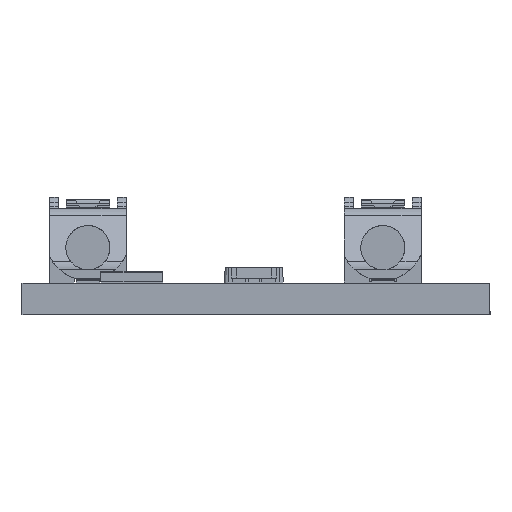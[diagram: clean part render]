
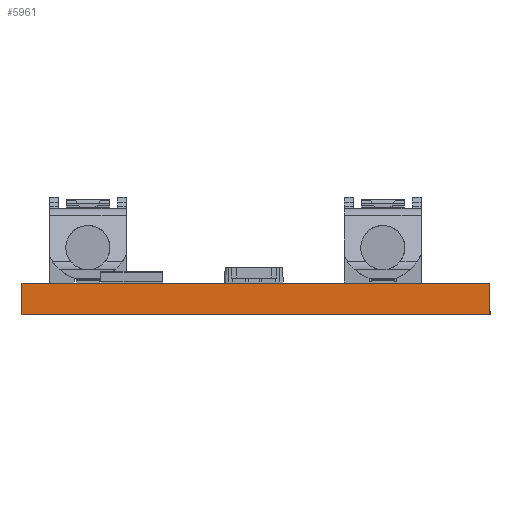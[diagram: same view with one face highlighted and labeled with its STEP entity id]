
A CAD part, left-side view. The second image highlights one B-rep face of the part: STEP entity #5961.
In plain terms, the highlighted planar face has unit normal (-1, 0, 0).
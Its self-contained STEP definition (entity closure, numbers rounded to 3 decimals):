
#79 = VECTOR ( 'NONE', #8153, 1000. ) ;
#138 = LINE ( 'NONE', #8077, #6708 ) ;
#190 = VERTEX_POINT ( 'NONE', #7967 ) ;
#483 = DIRECTION ( 'NONE',  ( 0., 0., -1. ) ) ;
#971 = DIRECTION ( 'NONE',  ( 0., 0., -1. ) ) ;
#1252 = DIRECTION ( 'NONE',  ( 1., 0., 0. ) ) ;
#1570 = DIRECTION ( 'NONE',  ( 0., -1., 0. ) ) ;
#1781 = LINE ( 'NONE', #6242, #79 ) ;
#2075 = EDGE_CURVE ( 'NONE', #5160, #2401, #1781, .T. ) ;
#2401 = VERTEX_POINT ( 'NONE', #5819 ) ;
#2406 = VERTEX_POINT ( 'NONE', #5853 ) ;
#2626 = EDGE_CURVE ( 'NONE', #2401, #2406, #3852, .T. ) ;
#2832 = LINE ( 'NONE', #2846, #4310 ) ;
#2846 = CARTESIAN_POINT ( 'NONE',  ( 0., 0., 0. ) ) ;
#3417 = AXIS2_PLACEMENT_3D ( 'NONE', #5049, #1252, #5697 ) ;
#3824 = ORIENTED_EDGE ( 'NONE', *, *, #4302, .T. ) ;
#3852 = LINE ( 'NONE', #4759, #5953 ) ;
#4110 = EDGE_CURVE ( 'NONE', #190, #2406, #2832, .T. ) ;
#4270 = PLANE ( 'NONE',  #3417 ) ;
#4302 = EDGE_CURVE ( 'NONE', #5160, #190, #138, .T. ) ;
#4310 = VECTOR ( 'NONE', #1570, 1000. ) ;
#4759 = CARTESIAN_POINT ( 'NONE',  ( 0., 0., 1.6 ) ) ;
#4933 = ORIENTED_EDGE ( 'NONE', *, *, #2626, .F. ) ;
#5049 = CARTESIAN_POINT ( 'NONE',  ( 0., 0., 1.6 ) ) ;
#5160 = VERTEX_POINT ( 'NONE', #6149 ) ;
#5375 = ORIENTED_EDGE ( 'NONE', *, *, #2075, .F. ) ;
#5697 = DIRECTION ( 'NONE',  ( 0., 0., -1. ) ) ;
#5819 = CARTESIAN_POINT ( 'NONE',  ( 0., 0., 1.6 ) ) ;
#5853 = CARTESIAN_POINT ( 'NONE',  ( 0., 0., 0. ) ) ;
#5953 = VECTOR ( 'NONE', #971, 1000. ) ;
#5961 = ADVANCED_FACE ( 'NONE', ( #8142 ), #4270, .F. ) ;
#5993 = EDGE_LOOP ( 'NONE', ( #7471, #4933, #5375, #3824 ) ) ;
#6149 = CARTESIAN_POINT ( 'NONE',  ( 0., 23.8, 1.6 ) ) ;
#6242 = CARTESIAN_POINT ( 'NONE',  ( 0., 0., 1.6 ) ) ;
#6708 = VECTOR ( 'NONE', #483, 1000. ) ;
#7471 = ORIENTED_EDGE ( 'NONE', *, *, #4110, .T. ) ;
#7967 = CARTESIAN_POINT ( 'NONE',  ( 0., 23.8, 0. ) ) ;
#8077 = CARTESIAN_POINT ( 'NONE',  ( 0., 23.8, 1.6 ) ) ;
#8142 = FACE_OUTER_BOUND ( 'NONE', #5993, .T. ) ;
#8153 = DIRECTION ( 'NONE',  ( 0., -1., 0. ) ) ;
